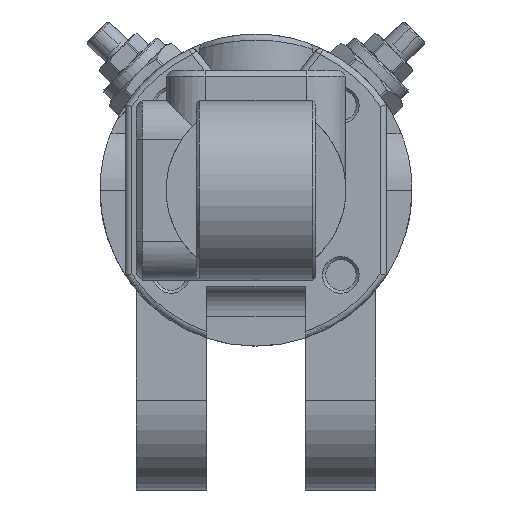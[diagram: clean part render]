
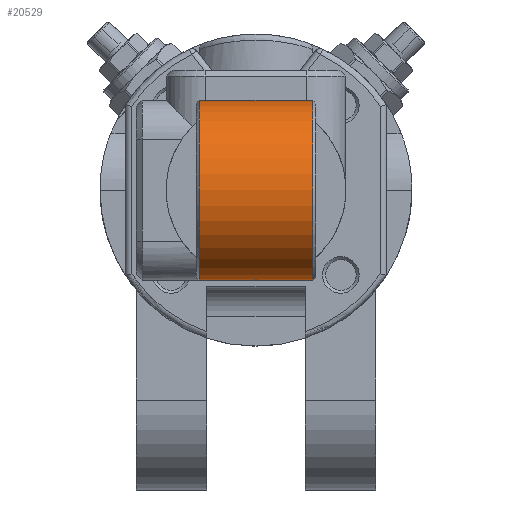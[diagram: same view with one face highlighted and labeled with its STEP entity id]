
A CAD part, front view. The second image highlights one B-rep face of the part: STEP entity #20529.
In plain terms, the highlighted cylindrical face has radius 15 mm (diameter 30 mm), a full revolution.
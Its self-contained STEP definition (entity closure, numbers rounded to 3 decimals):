
#20442=CARTESIAN_POINT('',(9.5,-53.5,0.));
#20443=VERTEX_POINT('',#20442);
#20444=CARTESIAN_POINT('',(9.5,-68.5,0.0));
#20445=DIRECTION('',(1.0,0.0,0.0));
#20446=DIRECTION('',(0.0,-1.0,0.0));
#20447=AXIS2_PLACEMENT_3D('',#20444,#20445,#20446);
#20448=CIRCLE('',#20447,15.0);
#20449=EDGE_CURVE('',#20443,#20443,#20448,.T.);
#20454=CARTESIAN_POINT('',(0.0,-68.5,0.0));
#20455=DIRECTION('',(1.0,0.0,0.0));
#20456=DIRECTION('',(0.0,-1.0,0.0));
#20457=AXIS2_PLACEMENT_3D('',#20454,#20455,#20456);
#20458=CYLINDRICAL_SURFACE('',#20457,15.0);
#20459=CARTESIAN_POINT('',(-9.5,-53.5,0.));
#20460=VERTEX_POINT('',#20459);
#20461=CARTESIAN_POINT('',(-9.5,-68.5,0.0));
#20462=DIRECTION('',(-1.0,0.0,0.0));
#20463=DIRECTION('',(0.0,-1.0,0.0));
#20464=AXIS2_PLACEMENT_3D('',#20461,#20462,#20463);
#20465=CIRCLE('',#20464,15.0);
#20466=EDGE_CURVE('',#20460,#20460,#20465,.T.);
#20467=ORIENTED_EDGE('',*,*,#20466,.F.);
#20468=EDGE_LOOP('',(#20467));
#20469=FACE_OUTER_BOUND('',#20468,.T.);
#20470=CARTESIAN_POINT('',(-9.,-59.5,-12.));
#20471=VERTEX_POINT('',#20470);
#20472=CARTESIAN_POINT('',(-9.0,-59.5,12.));
#20473=VERTEX_POINT('',#20472);
#20474=CARTESIAN_POINT('',(-9.0,-68.5,0.0));
#20475=DIRECTION('',(1.0,0.0,0.0));
#20476=DIRECTION('',(0.0,-1.0,0.0));
#20477=AXIS2_PLACEMENT_3D('',#20474,#20475,#20476);
#20478=CIRCLE('',#20477,15.0);
#20479=EDGE_CURVE('',#20471,#20473,#20478,.T.);
#20480=ORIENTED_EDGE('',*,*,#20479,.F.);
#20481=CARTESIAN_POINT('',(0.0,-68.5,-15.));
#20482=VERTEX_POINT('',#20481);
#20483=CARTESIAN_POINT('',(0.0,-68.5,0.0));
#20484=DIRECTION('',(0.707,0.707,0.0));
#20485=DIRECTION('',(0.707,-0.707,0.0));
#20486=AXIS2_PLACEMENT_3D('',#20483,#20484,#20485);
#20487=ELLIPSE('',#20486,21.213,15.);
#20488=EDGE_CURVE('',#20482,#20471,#20487,.T.);
#20489=ORIENTED_EDGE('',*,*,#20488,.F.);
#20490=CARTESIAN_POINT('',(9.0,-59.5,-12.));
#20491=VERTEX_POINT('',#20490);
#20492=CARTESIAN_POINT('',(0.0,-68.5,0.0));
#20493=DIRECTION('',(-0.707,0.707,0.0));
#20494=DIRECTION('',(-0.707,-0.707,0.0));
#20495=AXIS2_PLACEMENT_3D('',#20492,#20493,#20494);
#20496=ELLIPSE('',#20495,21.213,15.);
#20497=EDGE_CURVE('',#20491,#20482,#20496,.T.);
#20498=ORIENTED_EDGE('',*,*,#20497,.F.);
#20499=CARTESIAN_POINT('',(9.,-59.5,12.));
#20500=VERTEX_POINT('',#20499);
#20501=CARTESIAN_POINT('',(9.,-68.5,0.0));
#20502=DIRECTION('',(-1.0,0.0,0.0));
#20503=DIRECTION('',(0.0,-1.0,0.0));
#20504=AXIS2_PLACEMENT_3D('',#20501,#20502,#20503);
#20505=CIRCLE('',#20504,15.0);
#20506=EDGE_CURVE('',#20500,#20491,#20505,.T.);
#20507=ORIENTED_EDGE('',*,*,#20506,.F.);
#20508=CARTESIAN_POINT('',(0.0,-68.5,15.));
#20509=VERTEX_POINT('',#20508);
#20510=CARTESIAN_POINT('',(0.0,-68.5,0.0));
#20511=DIRECTION('',(-0.707,0.707,0.0));
#20512=DIRECTION('',(-0.707,-0.707,0.0));
#20513=AXIS2_PLACEMENT_3D('',#20510,#20511,#20512);
#20514=ELLIPSE('',#20513,21.213,15.);
#20515=EDGE_CURVE('',#20509,#20500,#20514,.T.);
#20516=ORIENTED_EDGE('',*,*,#20515,.F.);
#20517=CARTESIAN_POINT('',(0.0,-68.5,0.0));
#20518=DIRECTION('',(0.707,0.707,0.0));
#20519=DIRECTION('',(0.707,-0.707,0.0));
#20520=AXIS2_PLACEMENT_3D('',#20517,#20518,#20519);
#20521=ELLIPSE('',#20520,21.213,15.);
#20522=EDGE_CURVE('',#20473,#20509,#20521,.T.);
#20523=ORIENTED_EDGE('',*,*,#20522,.F.);
#20524=EDGE_LOOP('',(#20480,#20489,#20498,#20507,#20516,#20523));
#20525=FACE_BOUND('',#20524,.T.);
#20526=ORIENTED_EDGE('',*,*,#20449,.F.);
#20527=EDGE_LOOP('',(#20526));
#20528=FACE_BOUND('',#20527,.T.);
#20529=ADVANCED_FACE('',(#20469,#20525,#20528),#20458,.T.);
